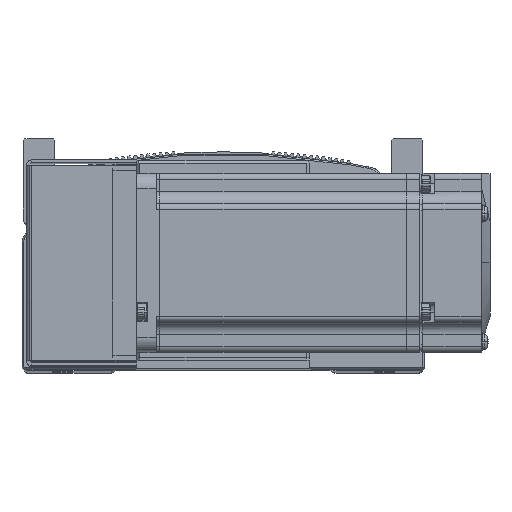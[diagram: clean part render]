
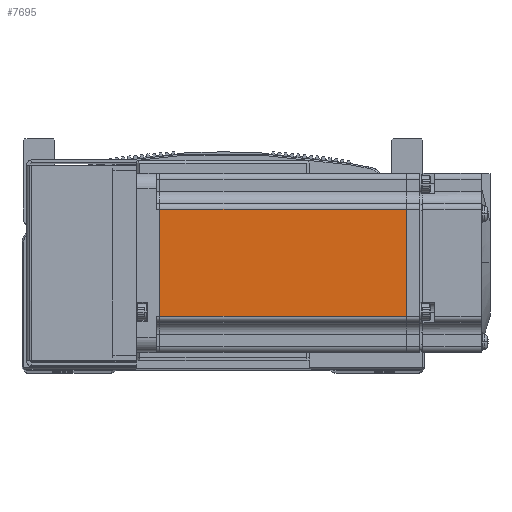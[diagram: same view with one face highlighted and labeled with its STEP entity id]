
A CAD part, top view. The second image highlights one B-rep face of the part: STEP entity #7695.
In plain terms, the highlighted planar face has unit normal (0, 0, 1) as drawn and (0, 0, -1) by its records, which use the part's own axes.
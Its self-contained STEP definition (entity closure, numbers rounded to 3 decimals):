
#4637 = DIRECTION ( 'NONE',  ( 1., 0., 0. ) ) ;
#4650 = DIRECTION ( 'NONE',  ( 0., 1., 0. ) ) ;
#4684 = CARTESIAN_POINT ( 'NONE',  ( -6.5, 18., -30. ) ) ;
#4694 = CARTESIAN_POINT ( 'NONE',  ( -90.45, 25., -30. ) ) ;
#4910 = CARTESIAN_POINT ( 'NONE',  ( -6.5, -18., -30. ) ) ;
#4917 = DIRECTION ( 'NONE',  ( -1., 0., 0. ) ) ;
#5037 = CARTESIAN_POINT ( 'NONE',  ( -7.75, 25., -30. ) ) ;
#5091 = DIRECTION ( 'NONE',  ( 0., -1., 0. ) ) ;
#7695 = ADVANCED_FACE ( 'NONE', ( #32119 ), #40750, .T. ) ;
#11375 = LINE ( 'NONE', #4684, #11378 ) ;
#11378 = VECTOR ( 'NONE', #4637, 1000. ) ;
#11441 = LINE ( 'NONE', #4694, #11446 ) ;
#11446 = VECTOR ( 'NONE', #4650, 1000. ) ;
#11472 = LINE ( 'NONE', #4910, #11491 ) ;
#11479 = LINE ( 'NONE', #5037, #11508 ) ;
#11491 = VECTOR ( 'NONE', #4917, 1000. ) ;
#11508 = VECTOR ( 'NONE', #5091, 1000. ) ;
#32119 = FACE_OUTER_BOUND ( 'NONE', #75729, .T. ) ;
#33346 = AXIS2_PLACEMENT_3D ( 'NONE', #40768, #40802, #40711 ) ;
#40711 = DIRECTION ( 'NONE',  ( -1., 0., 0. ) ) ;
#40750 = PLANE ( 'NONE',  #33346 ) ;
#40768 = CARTESIAN_POINT ( 'NONE',  ( -6.5, 25., -30. ) ) ;
#40802 = DIRECTION ( 'NONE',  ( 0., 0., -1. ) ) ;
#46395 = ORIENTED_EDGE ( 'NONE', *, *, #70258, .T. ) ;
#47515 = ORIENTED_EDGE ( 'NONE', *, *, #70199, .T. ) ;
#49044 = ORIENTED_EDGE ( 'NONE', *, *, #70267, .T. ) ;
#49085 = ORIENTED_EDGE ( 'NONE', *, *, #70210, .T. ) ;
#58304 = VERTEX_POINT ( 'NONE', #72732 ) ;
#58348 = VERTEX_POINT ( 'NONE', #72712 ) ;
#58430 = VERTEX_POINT ( 'NONE', #72755 ) ;
#58478 = VERTEX_POINT ( 'NONE', #72727 ) ;
#70199 = EDGE_CURVE ( 'NONE', #58478, #58304, #11375, .T. ) ;
#70210 = EDGE_CURVE ( 'NONE', #58430, #58478, #11441, .T. ) ;
#70258 = EDGE_CURVE ( 'NONE', #58348, #58430, #11472, .T. ) ;
#70267 = EDGE_CURVE ( 'NONE', #58304, #58348, #11479, .T. ) ;
#72712 = CARTESIAN_POINT ( 'NONE',  ( -7.75, -18., -30. ) ) ;
#72727 = CARTESIAN_POINT ( 'NONE',  ( -90.45, 18., -30. ) ) ;
#72732 = CARTESIAN_POINT ( 'NONE',  ( -7.75, 18., -30. ) ) ;
#72755 = CARTESIAN_POINT ( 'NONE',  ( -90.45, -18., -30. ) ) ;
#75729 = EDGE_LOOP ( 'NONE', ( #49044, #46395, #49085, #47515 ) ) ;
